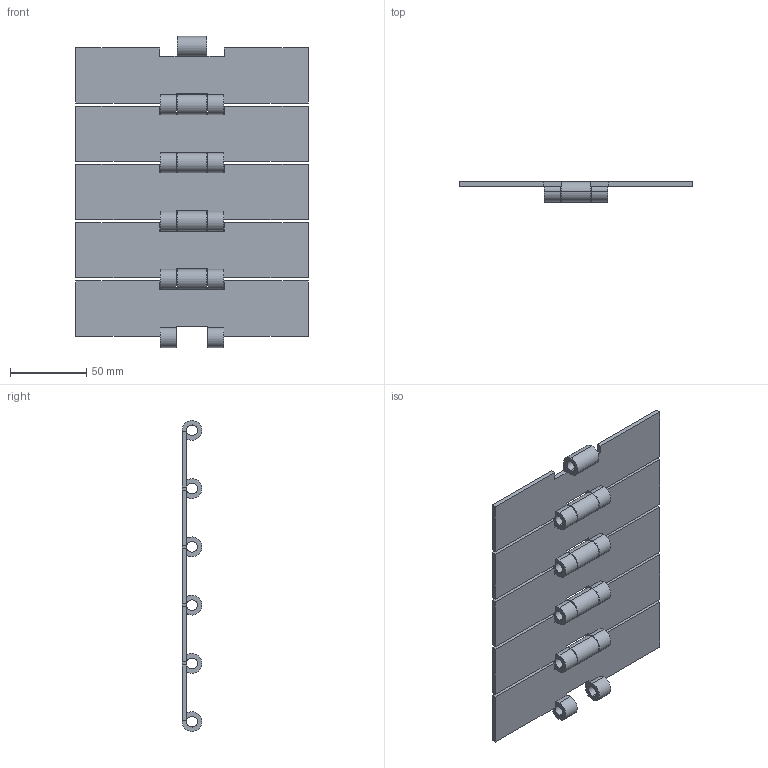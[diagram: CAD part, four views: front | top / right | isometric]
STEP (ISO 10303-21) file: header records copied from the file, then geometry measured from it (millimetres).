
FILE_DESCRIPTION (( 'STEP AP203' ), '1' );
FILE_NAME ('8103040152.STEP', '2024-11-12T12:28:50', ( '' ), ( '' ), 'SwSTEP 2.0', 'SolidWorks 2021', '' );
FILE_SCHEMA (( 'CONFIG_CONTROL_DESIGN' ));
Length unit declared in the file: millimetre
Products named in the file (1): 8103040152
Bounding box: 152 x 13 x 203.5 mm (x, y, z)
Volume: 95714.4 mm3; surface area: 71062.3 mm2
Topology: 5 solids, 5 shells, 170 faces, 480 edges, 320 vertices
Faces by surface type: plane 95, cylinder 75
Entity records: 5663 total; most frequent: DIRECTION 972, CARTESIAN_POINT 971, ORIENTED_EDGE 960, EDGE_CURVE 480, VECTOR 330, LINE 330, AXIS2_PLACEMENT_3D 321, VERTEX_POINT 320
